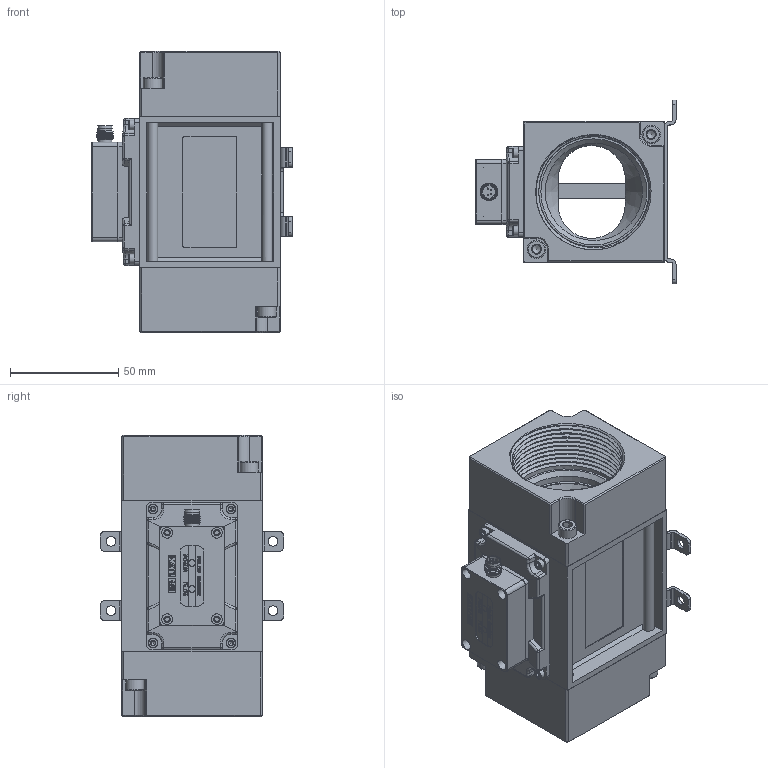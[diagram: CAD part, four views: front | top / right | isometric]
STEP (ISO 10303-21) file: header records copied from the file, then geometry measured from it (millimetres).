
FILE_DESCRIPTION( (''), '2;1');
FILE_NAME( 'QEKJ_400L_R1_M12_bracket.step', '2023-06-27T08:48:32+08:00', (''), (''), '', '', '');
FILE_SCHEMA (('AUTOMOTIVE_DESIGN { 1 0 10303 214 3 1 1 1 }'));
Length unit declared in the file: millimetre
Products named in the file (1): QEKJ 400L_R1_M12_bracket
Bounding box: 92.5 x 85 x 130 mm (x, y, z)
Volume: 259008.3 mm3; surface area: 126122.9 mm2
Topology: 18 solids, 18 shells, 1595 faces, 3995 edges, 2534 vertices
Faces by surface type: plane 924, cylinder 342, cone 143, extrusion 116, torus 44, sphere 16, bspline 10
Full cylindrical faces by diameter (mm): 0.6 x4, 1.6 x4, 2 x3, 2.05 x8, 2.38 x4, 2.8 x4, 3 x6, 3.3 x4, 4 x1, 4.2 x4, 4.5 x12, 4.826 x8, 5 x8, 5.5 x12, 5.8 x1, 6.5 x2, 8 x8, 8.5 x16, 45 x2, 51 x20
Entity records: 52177 total; most frequent: CARTESIAN_POINT 16069, ORIENTED_EDGE 7226, DIRECTION 7065, EDGE_CURVE 3613, VECTOR 2435, VERTEX_POINT 2418, LINE 2319, AXIS2_PLACEMENT_3D 2315
